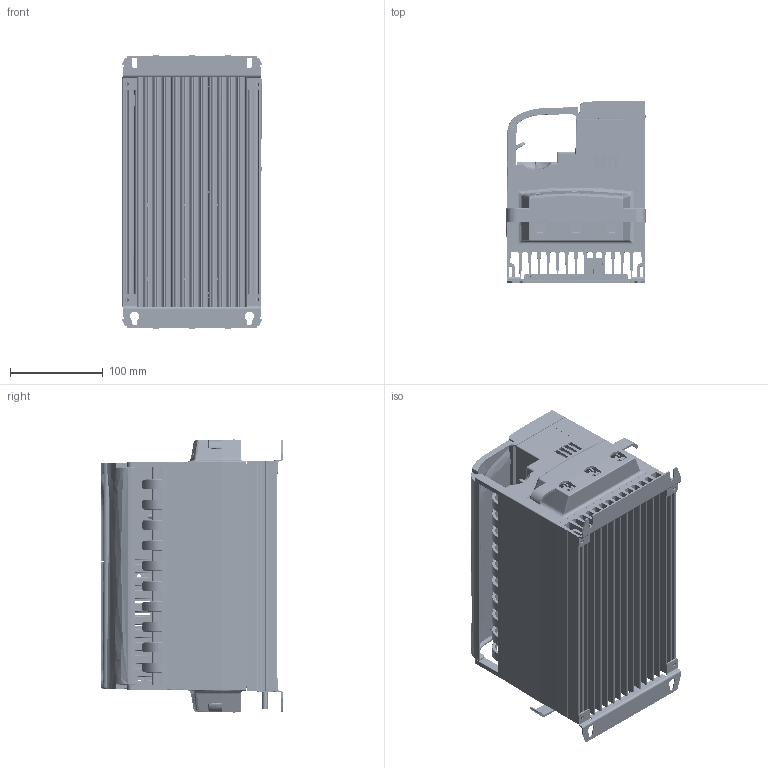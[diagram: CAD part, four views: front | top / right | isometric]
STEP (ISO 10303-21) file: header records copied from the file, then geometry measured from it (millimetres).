
FILE_DESCRIPTION (( 'STEP AP214' ), '1' );
FILE_NAME ('722-13710-00B.STEP', '2012-01-19T23:32:53', ( 'Mech Eng Contractor' ), ( 'AuCom Electronics Ltd' ), 'SwSTEP 2.0', 'SolidWorks 2010', '' );
FILE_SCHEMA (( 'AUTOMOTIVE_DESIGN' ));
Length unit declared in the file: millimetre
Products named in the file (1): 722-13710-00B
Bounding box: 150.82 x 196.6 x 295.75 mm (x, y, z)
Volume: 3389984.5 mm3; surface area: 932113.9 mm2
Topology: 25 solids, 25 shells, 10343 faces, 26805 edges, 17035 vertices
Faces by surface type: plane 4998, bspline 2737, cylinder 1742, cone 377, torus 283, sphere 206
Entity records: 562787 total; most frequent: CARTESIAN_POINT 216893, ORIENTED_EDGE 53340, DIRECTION 38983, EDGE_CURVE 26670, VERTEX_POINT 17032, LINE 15977, VECTOR 15977, AXIS2_PLACEMENT_3D 11503
